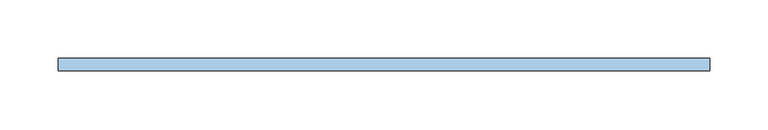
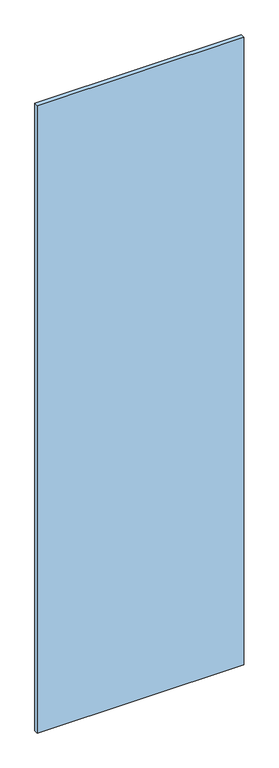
"""IFC4 building model written with IfcOpenShell, lengths in millimetres: window geometry, Baño 1 Hueco lateral : CA-1b-cancel baño-1.455 2."""

from ifc_helpers import new_model, si_unit, origin, origin_with_axes, place, context, project, spatial, polyline, outline, extrude, source, transform, mapped, element, save


def window_9db48d2a(model_context):
    return source(origin(), model_context, "Body", "SweptSolid", [
        extrude(outline(polyline([(-580.0, -5.5), (-580.0, 5.5), (-20.0, 5.5), (-20.0, -5.5), (-580.0, -5.5)])), origin_with_axes(), (0.0, 0.0, 1.0), 1800.0),
    ])


if __name__ == "__main__":
    model = new_model("IFC4")
    model_context = context("Model", 3, world=origin())
    ifc_project = project(units=[si_unit("LENGTHUNIT", "METRE", prefix="MILLI")], contexts=[model_context])
    site = spatial("IfcSite", under=ifc_project)
    building = spatial("IfcBuilding", under=site)
    placement = place(None, origin())
    window_shape = window_9db48d2a(model_context)
    element("IfcWindow", 1, ObjectType="Baño 1 Hueco lateral : CA-1b-cancel baño-1.455 2", at=placement, inside=building, context=model_context, shape_type="MappedRepresentation", body=[
        mapped(window_shape, transform((0.0, 0.0, 0.0), x_axis=(1.0, 0.0, 0.0), y_axis=(0.0, 1.0, 0.0), z_axis=(0.0, 0.0, 1.0))),
    ])
    save(model, "model.ifc")
